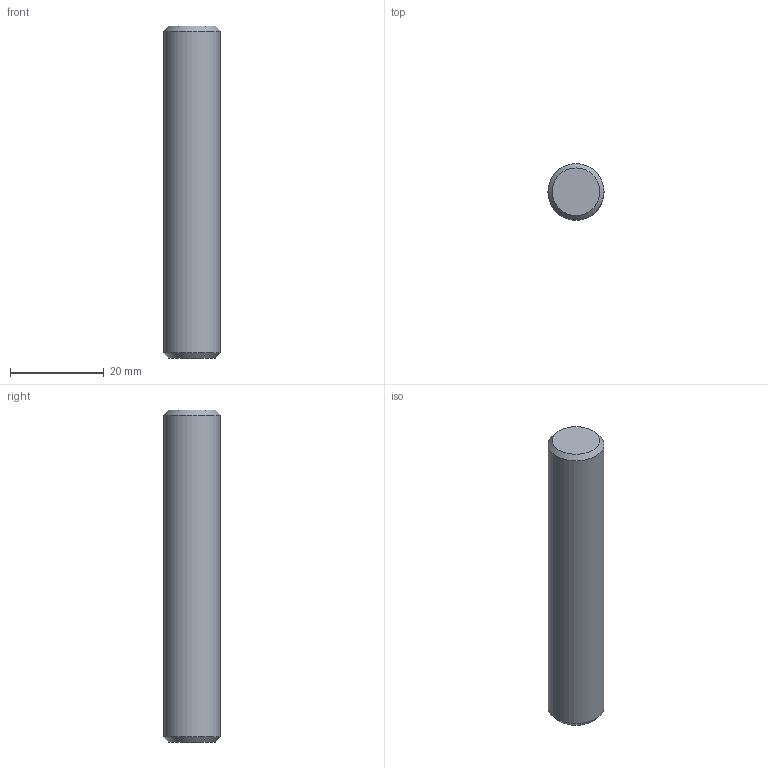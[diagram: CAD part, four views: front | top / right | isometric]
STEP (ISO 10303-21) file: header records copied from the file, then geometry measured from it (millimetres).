
FILE_DESCRIPTION(('Open CASCADE Model'),'2;1');
FILE_NAME('Open CASCADE Shape Model','2026-08-23T08:04:38',('Author'),( 'Open CASCADE'),'Open CASCADE STEP processor 7.9','Open CASCADE 7.9' ,'Unknown');
FILE_SCHEMA(('AUTOMOTIVE_DESIGN { 1 0 10303 214 1 1 1 1 }'));
Length unit declared in the file: millimetre
Products named in the file (2): =>[0:1:1:2]; COMPOUND
Assembly tree (1 placements, depth 2):
  =>[0:1:1:2]
    COMPOUND
Bounding box: 12 x 12 x 71 mm (x, y, z)
Volume: 7993.8 mm3; surface area: 2855.8 mm2
Topology: 1 solids, 1 shells, 5 faces, 7 edges, 4 vertices
Faces by surface type: cone 2, plane 2, cylinder 1
Full cylindrical faces by diameter (mm): 12 x1
Entity records: 244 total; most frequent: DIRECTION 39, CARTESIAN_POINT 32, LINE 15, VECTOR 15, ORIENTED_EDGE 14, PCURVE 14, DEFINITIONAL_REPRESENTATION 14, AXIS2_PLACEMENT_3D 11
